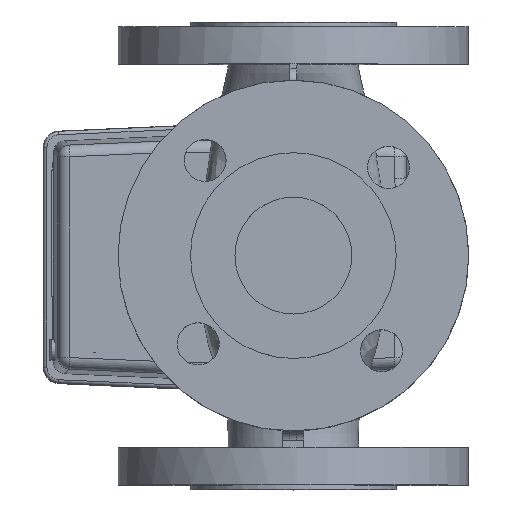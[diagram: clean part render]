
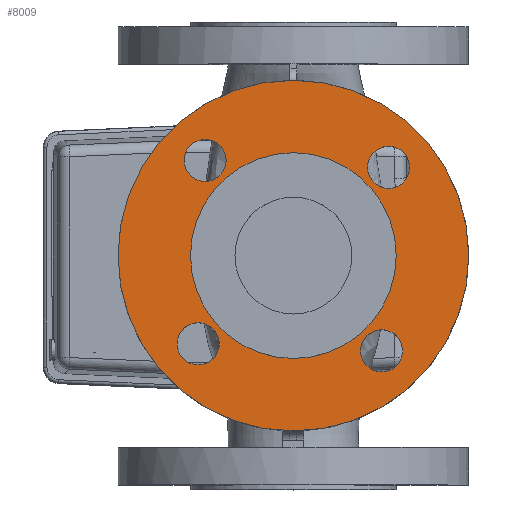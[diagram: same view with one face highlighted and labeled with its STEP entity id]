
A CAD part, top view. The second image highlights one B-rep face of the part: STEP entity #8009.
In plain terms, the highlighted planar face has unit normal (0, 0, 1).
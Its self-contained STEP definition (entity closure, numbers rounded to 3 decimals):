
#223=PLANE('',#8539);
#2108=ORIENTED_EDGE('',*,*,#3246,.T.);
#2109=ORIENTED_EDGE('',*,*,#3254,.F.);
#2110=ORIENTED_EDGE('',*,*,#3250,.F.);
#2111=ORIENTED_EDGE('',*,*,#3251,.F.);
#2112=ORIENTED_EDGE('',*,*,#3248,.F.);
#2113=ORIENTED_EDGE('',*,*,#3247,.F.);
#3246=EDGE_CURVE('',#3900,#3900,#4242,.T.);
#3247=EDGE_CURVE('',#3901,#3901,#4243,.T.);
#3248=EDGE_CURVE('',#3902,#3902,#4244,.T.);
#3250=EDGE_CURVE('',#3903,#3903,#4246,.T.);
#3251=EDGE_CURVE('',#3904,#3904,#4247,.T.);
#3254=EDGE_CURVE('',#3907,#3907,#4250,.T.);
#3900=VERTEX_POINT('',#15227);
#3901=VERTEX_POINT('',#15230);
#3902=VERTEX_POINT('',#15233);
#3903=VERTEX_POINT('',#15238);
#3904=VERTEX_POINT('',#15241);
#3907=VERTEX_POINT('',#15250);
#4242=CIRCLE('',#8524,75.);
#4243=CIRCLE('',#8526,9.);
#4244=CIRCLE('',#8528,9.);
#4246=CIRCLE('',#8532,9.);
#4247=CIRCLE('',#8534,9.);
#4250=CIRCLE('',#8540,44.);
#4646=EDGE_LOOP('',(#2108));
#4647=EDGE_LOOP('',(#2109));
#4648=EDGE_LOOP('',(#2110));
#4649=EDGE_LOOP('',(#2111));
#4650=EDGE_LOOP('',(#2112));
#4651=EDGE_LOOP('',(#2113));
#5108=FACE_BOUND('',#4646,.T.);
#5109=FACE_BOUND('',#4647,.T.);
#5110=FACE_BOUND('',#4648,.T.);
#5111=FACE_BOUND('',#4649,.T.);
#5112=FACE_BOUND('',#4650,.T.);
#5113=FACE_BOUND('',#4651,.T.);
#8009=ADVANCED_FACE('',(#5108,#5109,#5110,#5111,#5112,#5113),#223,.T.);
#8524=AXIS2_PLACEMENT_3D('',#15226,#9830,#9831);
#8526=AXIS2_PLACEMENT_3D('',#15229,#9834,#9835);
#8528=AXIS2_PLACEMENT_3D('',#15232,#9838,#9839);
#8532=AXIS2_PLACEMENT_3D('',#15237,#9846,#9847);
#8534=AXIS2_PLACEMENT_3D('',#15240,#9850,#9851);
#8539=AXIS2_PLACEMENT_3D('',#15248,#9860,#9861);
#8540=AXIS2_PLACEMENT_3D('',#15249,#9862,#9863);
#9830=DIRECTION('',(0.,0.,1.));
#9831=DIRECTION('',(-1.,0.,0.));
#9834=DIRECTION('',(0.,0.,1.));
#9835=DIRECTION('',(-1.,0.,0.));
#9838=DIRECTION('',(0.,0.,1.));
#9839=DIRECTION('',(-1.,0.,0.));
#9846=DIRECTION('',(0.,0.,1.));
#9847=DIRECTION('',(-1.,0.,0.));
#9850=DIRECTION('',(0.,0.,1.));
#9851=DIRECTION('',(-1.,0.,0.));
#9860=DIRECTION('',(0.,0.,1.));
#9861=DIRECTION('',(-1.,0.,0.));
#9862=DIRECTION('',(0.,0.,1.));
#9863=DIRECTION('',(-1.,0.,0.));
#15226=CARTESIAN_POINT('',(0.755,0.055,320.));
#15227=CARTESIAN_POINT('',(-74.245,0.055,320.));
#15229=CARTESIAN_POINT('',(-36.969,40.763,320.));
#15230=CARTESIAN_POINT('',(-45.969,40.763,320.));
#15232=CARTESIAN_POINT('',(-39.952,-37.67,320.));
#15233=CARTESIAN_POINT('',(-48.952,-37.67,320.));
#15237=CARTESIAN_POINT('',(41.463,37.779,320.));
#15238=CARTESIAN_POINT('',(32.463,37.779,320.));
#15240=CARTESIAN_POINT('',(38.48,-40.653,320.));
#15241=CARTESIAN_POINT('',(29.48,-40.653,320.));
#15248=CARTESIAN_POINT('',(-4.066,-57.682,320.));
#15249=CARTESIAN_POINT('',(0.755,0.055,320.));
#15250=CARTESIAN_POINT('',(-43.245,0.055,320.));
